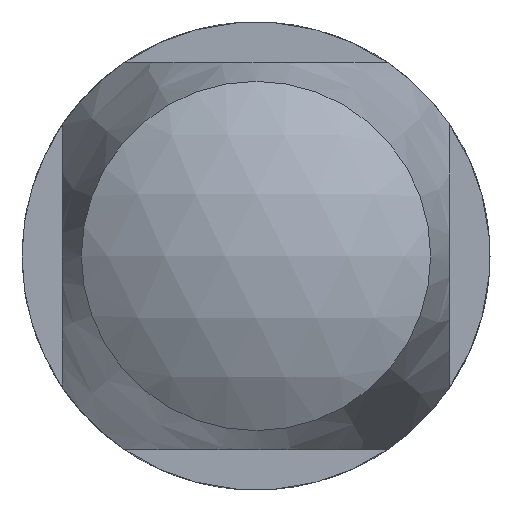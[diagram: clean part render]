
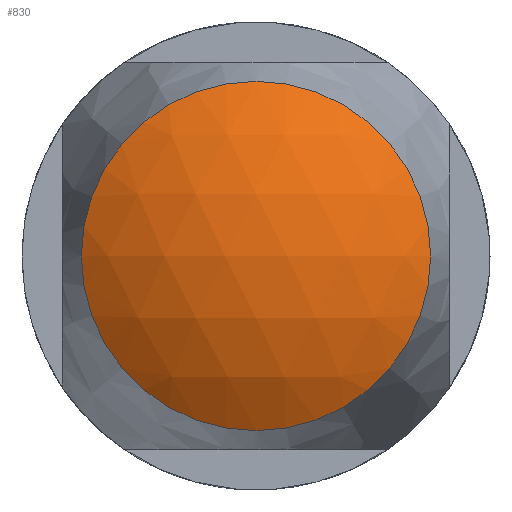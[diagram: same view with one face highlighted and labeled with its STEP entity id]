
A CAD part, front view. The second image highlights one B-rep face of the part: STEP entity #830.
In plain terms, the highlighted spherical face has radius 10.943 mm.
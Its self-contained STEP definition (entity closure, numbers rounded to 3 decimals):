
#19=SPHERICAL_SURFACE('',#917,10.943);
#274=FACE_OUTER_BOUND('',#341,.T.);
#341=EDGE_LOOP('',(#771));
#376=CIRCLE('',#918,6.306);
#453=VERTEX_POINT('',#1603);
#562=EDGE_CURVE('',#453,#453,#376,.T.);
#771=ORIENTED_EDGE('',*,*,#562,.F.);
#830=ADVANCED_FACE('',(#274),#19,.T.);
#917=AXIS2_PLACEMENT_3D('',#1602,#1145,#1146);
#918=AXIS2_PLACEMENT_3D('',#1604,#1147,#1148);
#1145=DIRECTION('center_axis',(0.,0.,1.));
#1146=DIRECTION('ref_axis',(1.,0.,0.));
#1147=DIRECTION('center_axis',(0.,1.,0.));
#1148=DIRECTION('ref_axis',(-1.,0.,0.));
#1602=CARTESIAN_POINT('Origin',(0.,-37.057,
0.));
#1603=CARTESIAN_POINT('',(-6.306,-46.,0.));
#1604=CARTESIAN_POINT('Origin',(0.,-46.,0.));
